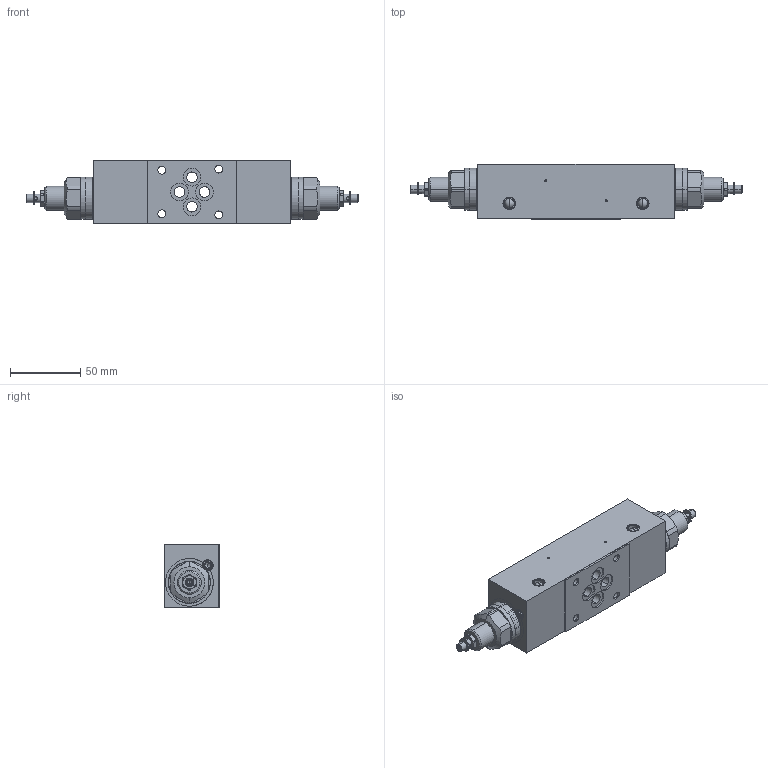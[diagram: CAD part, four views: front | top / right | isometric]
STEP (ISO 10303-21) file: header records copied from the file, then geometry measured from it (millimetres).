
FILE_DESCRIPTION (( 'STEP AP214' ), '1' );
FILE_NAME ('QZSSA06-ABV.STEP', '2017-04-19T11:18:34', ( '' ), ( '' ), 'SwSTEP 2.0', 'SolidWorks 2016', '' );
FILE_SCHEMA (( 'AUTOMOTIVE_DESIGN' ));
Length unit declared in the file: millimetre
Products named in the file (1): QZSSA06-ABV
Bounding box: 236.2 x 39.75 x 45 mm (x, y, z)
Volume: 267827.9 mm3; surface area: 48572.3 mm2
Topology: 6 solids, 10 shells, 537 faces, 1332 edges, 831 vertices
Faces by surface type: plane 203, cylinder 197, cone 100, torus 20, bspline 9, sphere 8
Entity records: 22801 total; most frequent: CARTESIAN_POINT 3965, DIRECTION 2830, ORIENTED_EDGE 2628, EDGE_CURVE 1314, AXIS2_PLACEMENT_3D 1134, VERTEX_POINT 831, EDGE_LOOP 615, CIRCLE 605
